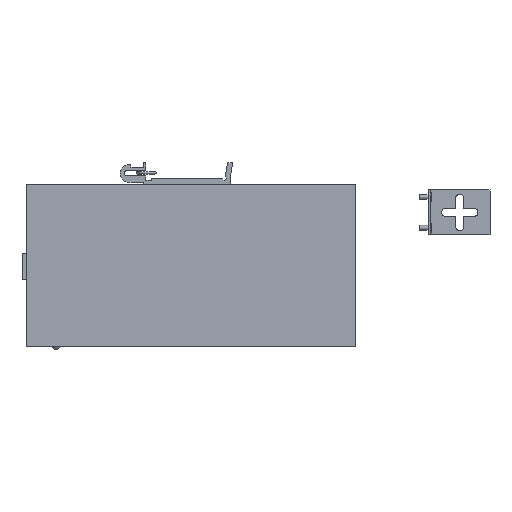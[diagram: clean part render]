
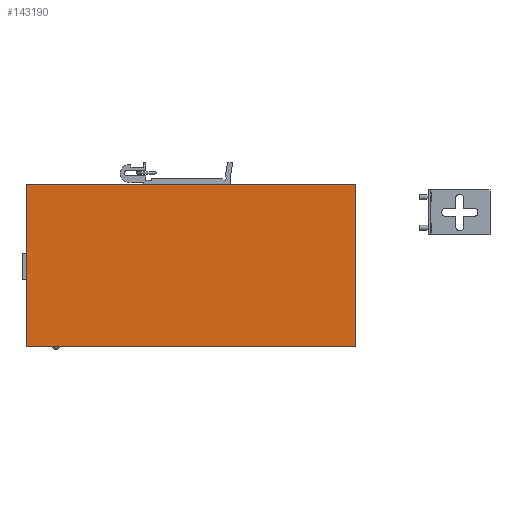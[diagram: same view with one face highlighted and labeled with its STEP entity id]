
A CAD part, top view. The second image highlights one B-rep face of the part: STEP entity #143190.
In plain terms, the highlighted planar face has unit normal (0, 0, 1).
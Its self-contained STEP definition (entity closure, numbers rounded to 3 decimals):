
#142443 = VERTEX_POINT('',#142444);
#142444 = CARTESIAN_POINT('',(0.,0.,25.));
#142459 = VERTEX_POINT('',#142460);
#142460 = CARTESIAN_POINT('',(0.,68.6,25.));
#142466 = EDGE_CURVE('',#142443,#142459,#142467,.T.);
#142467 = LINE('',#142468,#142469);
#142468 = CARTESIAN_POINT('',(0.,0.,25.));
#142469 = VECTOR('',#142470,1.);
#142470 = DIRECTION('',(0.,1.,0.));
#142637 = EDGE_CURVE('',#142443,#142638,#142640,.T.);
#142638 = VERTEX_POINT('',#142639);
#142639 = CARTESIAN_POINT('',(139.,0.,25.));
#142640 = LINE('',#142641,#142642);
#142641 = CARTESIAN_POINT('',(0.,0.,25.));
#142642 = VECTOR('',#142643,1.);
#142643 = DIRECTION('',(1.,0.,0.));
#143190 = ADVANCED_FACE('',(#143191),#143209,.T.);
#143191 = FACE_BOUND('',#143192,.T.);
#143192 = EDGE_LOOP('',(#143193,#143194,#143195,#143203));
#143193 = ORIENTED_EDGE('',*,*,#142466,.F.);
#143194 = ORIENTED_EDGE('',*,*,#142637,.T.);
#143195 = ORIENTED_EDGE('',*,*,#143196,.T.);
#143196 = EDGE_CURVE('',#142638,#143197,#143199,.T.);
#143197 = VERTEX_POINT('',#143198);
#143198 = CARTESIAN_POINT('',(139.,68.6,25.));
#143199 = LINE('',#143200,#143201);
#143200 = CARTESIAN_POINT('',(139.,0.,25.));
#143201 = VECTOR('',#143202,1.);
#143202 = DIRECTION('',(0.,1.,0.));
#143203 = ORIENTED_EDGE('',*,*,#143204,.F.);
#143204 = EDGE_CURVE('',#142459,#143197,#143205,.T.);
#143205 = LINE('',#143206,#143207);
#143206 = CARTESIAN_POINT('',(0.,68.6,25.));
#143207 = VECTOR('',#143208,1.);
#143208 = DIRECTION('',(1.,0.,0.));
#143209 = PLANE('',#143210);
#143210 = AXIS2_PLACEMENT_3D('',#143211,#143212,#143213);
#143211 = CARTESIAN_POINT('',(0.,0.,25.));
#143212 = DIRECTION('',(0.,0.,1.));
#143213 = DIRECTION('',(1.,0.,0.));
